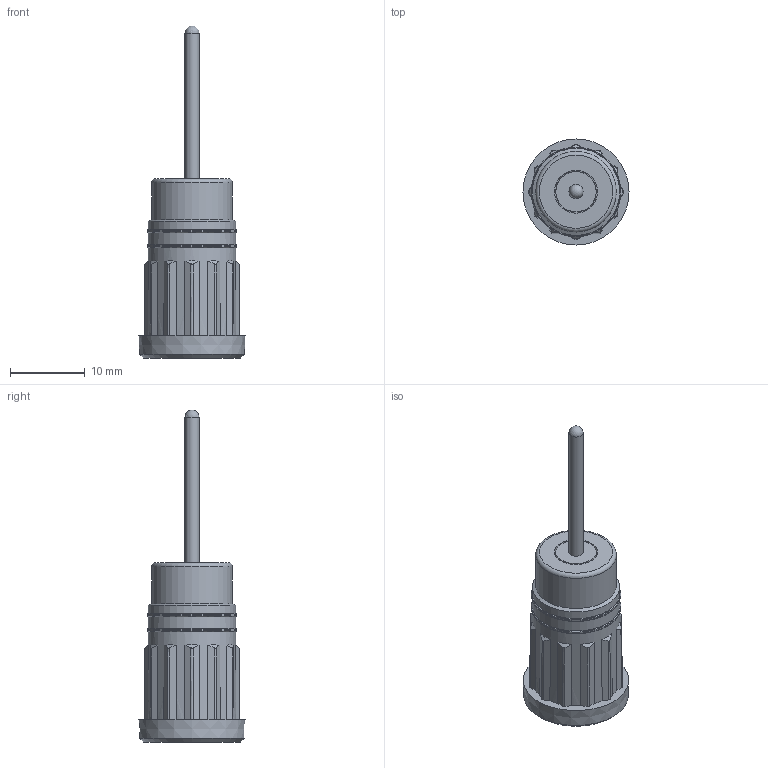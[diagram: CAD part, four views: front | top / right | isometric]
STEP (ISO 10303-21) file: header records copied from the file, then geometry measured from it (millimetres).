
FILE_DESCRIPTION (( 'STEP AP214' ), '1' );
FILE_NAME ('CT2913-9.STEP', '2017-10-11T17:59:20', ( '' ), ( '' ), 'SwSTEP 2.0', 'SolidWorks 2014', '' );
FILE_SCHEMA (( 'AUTOMOTIVE_DESIGN' ));
Length unit declared in the file: millimetre
Products named in the file (3): CT2913-9; 440-3xx_440-307; 440-310_440-310-09
Assembly tree (2 placements, depth 2):
  CT2913-9
    440-310_440-310-09
    440-3xx_440-307
Bounding box: 14.21 x 14.21 x 44.49 mm (x, y, z)
Volume: 1818.3 mm3; surface area: 3174.7 mm2
Topology: 2 solids, 2 shells, 213 faces, 525 edges, 341 vertices
Faces by surface type: plane 144, cone 42, bspline 12, torus 8, cylinder 6, sphere 1
Full cylindrical faces by diameter (mm): 1.9 x1, 4.1 x1, 5.4 x1, 10.8 x1, 12 x2
Entity records: 6308 total; most frequent: CARTESIAN_POINT 1432, ORIENTED_EDGE 974, DIRECTION 948, EDGE_CURVE 487, AXIS2_PLACEMENT_3D 351, VERTEX_POINT 331, EDGE_LOOP 268, VECTOR 246
